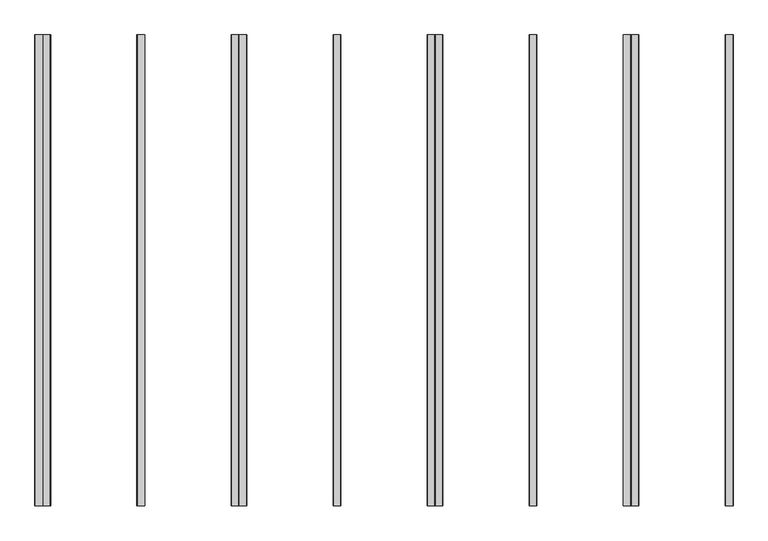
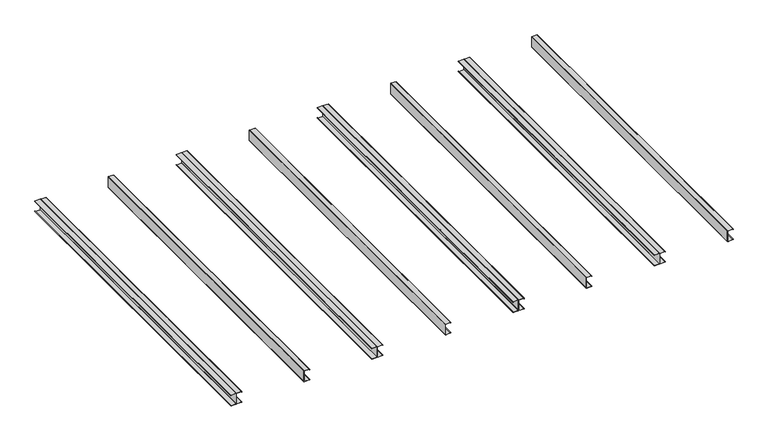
"""IFC4 building model written with IfcOpenShell, lengths in millimetres: proxy geometry, C and 2xCprofile 100mm : C and 2xCprofile 100mm 2."""

from ifc_helpers import new_model, si_unit, point, frame, frame_2d, origin, place, context, project, spatial, polyline, circle_curve, trimmed, segment, composite_curve, outline, extrude, source, transform, mapped, element, save


def generic_models_5ab04f61(model_context):
    return source(origin(), model_context, "Body", "SweptSolid", [
        extrude(outline(composite_curve([segment(polyline([(49.2, 4325.7364592), (49.2, 4374.1364592), (45.8621458, 4374.1364592), (45.8621458, 4373.3097291), (47.5, 4373.3097291), (47.5, 4372.5097291), (46.0995706, 4372.5097291)]), True, "CONTINUOUS"), segment(trimmed(circle_curve(frame_2d((46.0995706, 4373.7230941)), 1.213365), [point((46.0995706, 4372.5097291))], [point((46.0995706, 4374.9364592))], False, "CARTESIAN"), True, "CONTINUOUS"), segment(polyline([(46.0995706, 4374.9364592), (49.3270817, 4374.9364592)]), True, "CONTINUOUS"), segment(trimmed(circle_curve(frame_2d((49.3270817, 4374.2635408)), 0.6729183), [point((49.3270817, 4374.9364592))], [point((50.0, 4374.2635408))], False, "CARTESIAN"), True, "CONTINUOUS"), segment(polyline([(50.0, 4374.2635408), (50.0, 4325.7364592)]), True, "CONTINUOUS"), segment(trimmed(circle_curve(frame_2d((49.2, 4325.7364592)), 0.8), [point((50.0, 4325.7364592))], [point((49.2, 4324.9364592))], False, "CARTESIAN"), True, "CONTINUOUS"), segment(polyline([(49.2, 4324.9364592), (-49.2, 4324.9364592)]), True, "CONTINUOUS"), segment(trimmed(circle_curve(frame_2d((-49.2, 4325.7364592)), 0.8), [point((-49.2, 4324.9364592))], [point((-50.0, 4325.7364592))], False, "CARTESIAN"), True, "CONTINUOUS"), segment(polyline([(-50.0, 4325.7364592), (-50.0, 4374.2635408)]), True, "CONTINUOUS"), segment(trimmed(circle_curve(frame_2d((-49.3270817, 4374.2635408)), 0.6729183), [point((-50.0, 4374.2635408))], [point((-49.3270817, 4374.9364592))], False, "CARTESIAN"), True, "CONTINUOUS"), segment(polyline([(-49.3270817, 4374.9364592), (-46.0995706, 4374.9364592)]), True, "CONTINUOUS"), segment(trimmed(circle_curve(frame_2d((-46.0995706, 4373.7230941)), 1.213365), [point((-46.0995706, 4374.9364592))], [point((-46.0995706, 4372.5097291))], False, "CARTESIAN"), True, "CONTINUOUS"), segment(polyline([(-46.0995706, 4372.5097291), (-47.5, 4372.5097291), (-47.5, 4373.3097291), (-45.8621458, 4373.3097291), (-45.8621458, 4374.1364592), (-49.2, 4374.1364592), (-49.2, 4325.7364592), (49.2, 4325.7364592)]), True, "CONTINUOUS")], self_intersect=False)), frame((0.0, 0.0, 0.0), z_axis=(0.0, 1.0, 0.0), x_axis=(0.0, 0.0, 1.0)), (0.0, 0.0, 1.0), 3000.0),
        extrude(outline(composite_curve([segment(polyline([(49.2, 3075.7364592), (49.2, 3124.1364592), (45.8621458, 3124.1364592), (45.8621458, 3123.3097291), (47.5, 3123.3097291), (47.5, 3122.5097291), (46.0995706, 3122.5097291)]), True, "CONTINUOUS"), segment(trimmed(circle_curve(frame_2d((46.0995706, 3123.7230941)), 1.213365), [point((46.0995706, 3122.5097291))], [point((46.0995706, 3124.9364592))], False, "CARTESIAN"), True, "CONTINUOUS"), segment(polyline([(46.0995706, 3124.9364592), (49.3270817, 3124.9364592)]), True, "CONTINUOUS"), segment(trimmed(circle_curve(frame_2d((49.3270817, 3124.2635408)), 0.6729183), [point((49.3270817, 3124.9364592))], [point((50.0, 3124.2635408))], False, "CARTESIAN"), True, "CONTINUOUS"), segment(polyline([(50.0, 3124.2635408), (50.0, 3075.7364592)]), True, "CONTINUOUS"), segment(trimmed(circle_curve(frame_2d((49.2, 3075.7364592)), 0.8), [point((50.0, 3075.7364592))], [point((49.2, 3074.9364592))], False, "CARTESIAN"), True, "CONTINUOUS"), segment(polyline([(49.2, 3074.9364592), (-49.2, 3074.9364592)]), True, "CONTINUOUS"), segment(trimmed(circle_curve(frame_2d((-49.2, 3075.7364592)), 0.8), [point((-49.2, 3074.9364592))], [point((-50.0, 3075.7364592))], False, "CARTESIAN"), True, "CONTINUOUS"), segment(polyline([(-50.0, 3075.7364592), (-50.0, 3124.2635408)]), True, "CONTINUOUS"), segment(trimmed(circle_curve(frame_2d((-49.3270817, 3124.2635408)), 0.6729183), [point((-50.0, 3124.2635408))], [point((-49.3270817, 3124.9364592))], False, "CARTESIAN"), True, "CONTINUOUS"), segment(polyline([(-49.3270817, 3124.9364592), (-46.0995706, 3124.9364592)]), True, "CONTINUOUS"), segment(trimmed(circle_curve(frame_2d((-46.0995706, 3123.7230941)), 1.213365), [point((-46.0995706, 3124.9364592))], [point((-46.0995706, 3122.5097291))], False, "CARTESIAN"), True, "CONTINUOUS"), segment(polyline([(-46.0995706, 3122.5097291), (-47.5, 3122.5097291), (-47.5, 3123.3097291), (-45.8621458, 3123.3097291), (-45.8621458, 3124.1364592), (-49.2, 3124.1364592), (-49.2, 3075.7364592), (49.2, 3075.7364592)]), True, "CONTINUOUS")], self_intersect=False)), frame((0.0, 0.0, 0.0), z_axis=(0.0, 1.0, 0.0), x_axis=(0.0, 0.0, 1.0)), (0.0, 0.0, 1.0), 3000.0),
        extrude(outline(composite_curve([segment(polyline([(49.2, 1825.7364592), (49.2, 1874.1364592), (45.8621458, 1874.1364592), (45.8621458, 1873.3097291), (47.5, 1873.3097291), (47.5, 1872.5097291), (46.0995706, 1872.5097291)]), True, "CONTINUOUS"), segment(trimmed(circle_curve(frame_2d((46.0995706, 1873.7230941)), 1.213365), [point((46.0995706, 1872.5097291))], [point((46.0995706, 1874.9364592))], False, "CARTESIAN"), True, "CONTINUOUS"), segment(polyline([(46.0995706, 1874.9364592), (49.3270817, 1874.9364592)]), True, "CONTINUOUS"), segment(trimmed(circle_curve(frame_2d((49.3270817, 1874.2635408)), 0.6729183), [point((49.3270817, 1874.9364592))], [point((50.0, 1874.2635408))], False, "CARTESIAN"), True, "CONTINUOUS"), segment(polyline([(50.0, 1874.2635408), (50.0, 1825.7364592)]), True, "CONTINUOUS"), segment(trimmed(circle_curve(frame_2d((49.2, 1825.7364592)), 0.8), [point((50.0, 1825.7364592))], [point((49.2, 1824.9364592))], False, "CARTESIAN"), True, "CONTINUOUS"), segment(polyline([(49.2, 1824.9364592), (-49.2, 1824.9364592)]), True, "CONTINUOUS"), segment(trimmed(circle_curve(frame_2d((-49.2, 1825.7364592)), 0.8), [point((-49.2, 1824.9364592))], [point((-50.0, 1825.7364592))], False, "CARTESIAN"), True, "CONTINUOUS"), segment(polyline([(-50.0, 1825.7364592), (-50.0, 1874.2635408)]), True, "CONTINUOUS"), segment(trimmed(circle_curve(frame_2d((-49.3270817, 1874.2635408)), 0.6729183), [point((-50.0, 1874.2635408))], [point((-49.3270817, 1874.9364592))], False, "CARTESIAN"), True, "CONTINUOUS"), segment(polyline([(-49.3270817, 1874.9364592), (-46.0995706, 1874.9364592)]), True, "CONTINUOUS"), segment(trimmed(circle_curve(frame_2d((-46.0995706, 1873.7230941)), 1.213365), [point((-46.0995706, 1874.9364592))], [point((-46.0995706, 1872.5097291))], False, "CARTESIAN"), True, "CONTINUOUS"), segment(polyline([(-46.0995706, 1872.5097291), (-47.5, 1872.5097291), (-47.5, 1873.3097291), (-45.8621458, 1873.3097291), (-45.8621458, 1874.1364592), (-49.2, 1874.1364592), (-49.2, 1825.7364592), (49.2, 1825.7364592)]), True, "CONTINUOUS")], self_intersect=False)), frame((0.0, 0.0, 0.0), z_axis=(0.0, 1.0, 0.0), x_axis=(0.0, 0.0, 1.0)), (0.0, 0.0, 1.0), 3000.0),
        extrude(outline(composite_curve([segment(polyline([(49.2, 575.7364592), (49.2, 624.1364592), (45.8621458, 624.1364592), (45.8621458, 623.3097291), (47.5, 623.3097291), (47.5, 622.5097291), (46.0995706, 622.5097291)]), True, "CONTINUOUS"), segment(trimmed(circle_curve(frame_2d((46.0995706, 623.7230941)), 1.213365), [point((46.0995706, 622.5097291))], [point((46.0995706, 624.9364592))], False, "CARTESIAN"), True, "CONTINUOUS"), segment(polyline([(46.0995706, 624.9364592), (49.3270817, 624.9364592)]), True, "CONTINUOUS"), segment(trimmed(circle_curve(frame_2d((49.3270817, 624.2635408)), 0.6729183), [point((49.3270817, 624.9364592))], [point((50.0, 624.2635408))], False, "CARTESIAN"), True, "CONTINUOUS"), segment(polyline([(50.0, 624.2635408), (50.0, 575.7364592)]), True, "CONTINUOUS"), segment(trimmed(circle_curve(frame_2d((49.2, 575.7364592)), 0.8), [point((50.0, 575.7364592))], [point((49.2, 574.9364592))], False, "CARTESIAN"), True, "CONTINUOUS"), segment(polyline([(49.2, 574.9364592), (-49.2, 574.9364592)]), True, "CONTINUOUS"), segment(trimmed(circle_curve(frame_2d((-49.2, 575.7364592)), 0.8), [point((-49.2, 574.9364592))], [point((-50.0, 575.7364592))], False, "CARTESIAN"), True, "CONTINUOUS"), segment(polyline([(-50.0, 575.7364592), (-50.0, 624.2635408)]), True, "CONTINUOUS"), segment(trimmed(circle_curve(frame_2d((-49.3270817, 624.2635408)), 0.6729183), [point((-50.0, 624.2635408))], [point((-49.3270817, 624.9364592))], False, "CARTESIAN"), True, "CONTINUOUS"), segment(polyline([(-49.3270817, 624.9364592), (-46.0995706, 624.9364592)]), True, "CONTINUOUS"), segment(trimmed(circle_curve(frame_2d((-46.0995706, 623.7230941)), 1.213365), [point((-46.0995706, 624.9364592))], [point((-46.0995706, 622.5097291))], False, "CARTESIAN"), True, "CONTINUOUS"), segment(polyline([(-46.0995706, 622.5097291), (-47.5, 622.5097291), (-47.5, 623.3097291), (-45.8621458, 623.3097291), (-45.8621458, 624.1364592), (-49.2, 624.1364592), (-49.2, 575.7364592), (49.2, 575.7364592)]), True, "CONTINUOUS")], self_intersect=False)), frame((0.0, 0.0, 0.0), z_axis=(0.0, 1.0, 0.0), x_axis=(0.0, 0.0, 1.0)), (0.0, 0.0, 1.0), 3000.0),
        extrude(outline(composite_curve([segment(polyline([(49.2, 3724.2), (-49.2, 3724.2), (-49.2, 3675.8), (-45.8621458, 3675.8), (-45.8621458, 3676.62673), (-47.5, 3676.62673), (-47.5, 3677.42673), (-46.0995706, 3677.42673)]), True, "CONTINUOUS"), segment(trimmed(circle_curve(frame_2d((-46.0995706, 3676.213365)), 1.213365), [point((-46.0995706, 3677.42673))], [point((-46.0995706, 3675.0))], False, "CARTESIAN"), True, "CONTINUOUS"), segment(polyline([(-46.0995706, 3675.0), (-49.3270817, 3675.0)]), True, "CONTINUOUS"), segment(trimmed(circle_curve(frame_2d((-49.3270817, 3675.6729183)), 0.6729183), [point((-49.3270817, 3675.0))], [point((-50.0, 3675.6729183))], False, "CARTESIAN"), True, "CONTINUOUS"), segment(polyline([(-50.0, 3675.6729183), (-50.0, 3724.2)]), True, "CONTINUOUS"), segment(trimmed(circle_curve(frame_2d((-49.2, 3724.2)), 0.8), [point((-50.0, 3724.2))], [point((-49.2, 3725.0))], False, "CARTESIAN"), True, "CONTINUOUS"), segment(trimmed(circle_curve(frame_2d((-49.2, 3725.8)), 0.8), [point((-49.2, 3725.0))], [point((-50.0, 3725.8))], False, "CARTESIAN"), True, "CONTINUOUS"), segment(polyline([(-50.0, 3725.8), (-50.0, 3774.3270817)]), True, "CONTINUOUS"), segment(trimmed(circle_curve(frame_2d((-49.3270817, 3774.3270817)), 0.6729183), [point((-50.0, 3774.3270817))], [point((-49.3270817, 3775.0))], False, "CARTESIAN"), True, "CONTINUOUS"), segment(polyline([(-49.3270817, 3775.0), (-46.0995706, 3775.0)]), True, "CONTINUOUS"), segment(trimmed(circle_curve(frame_2d((-46.0995706, 3773.786635)), 1.213365), [point((-46.0995706, 3775.0))], [point((-46.0995706, 3772.57327))], False, "CARTESIAN"), True, "CONTINUOUS"), segment(polyline([(-46.0995706, 3772.57327), (-47.5, 3772.57327), (-47.5, 3773.37327), (-45.8621458, 3773.37327), (-45.8621458, 3774.2), (-49.2, 3774.2), (-49.2, 3725.8), (49.2, 3725.8), (49.2, 3774.2), (45.8621458, 3774.2), (45.8621458, 3773.37327), (47.5, 3773.37327), (47.5, 3772.57327), (46.0995706, 3772.57327)]), True, "CONTINUOUS"), segment(trimmed(circle_curve(frame_2d((46.0995706, 3773.786635)), 1.213365), [point((46.0995706, 3772.57327))], [point((46.0995706, 3775.0))], False, "CARTESIAN"), True, "CONTINUOUS"), segment(polyline([(46.0995706, 3775.0), (49.3270817, 3775.0)]), True, "CONTINUOUS"), segment(trimmed(circle_curve(frame_2d((49.3270817, 3774.3270817)), 0.6729183), [point((49.3270817, 3775.0))], [point((50.0, 3774.3270817))], False, "CARTESIAN"), True, "CONTINUOUS"), segment(polyline([(50.0, 3774.3270817), (50.0, 3725.8)]), True, "CONTINUOUS"), segment(trimmed(circle_curve(frame_2d((49.2, 3725.8)), 0.8), [point((50.0, 3725.8))], [point((49.2, 3725.0))], False, "CARTESIAN"), True, "CONTINUOUS"), segment(trimmed(circle_curve(frame_2d((49.2, 3724.2)), 0.8), [point((49.2, 3725.0))], [point((50.0, 3724.2))], False, "CARTESIAN"), True, "CONTINUOUS"), segment(polyline([(50.0, 3724.2), (50.0, 3675.6729183)]), True, "CONTINUOUS"), segment(trimmed(circle_curve(frame_2d((49.3270817, 3675.6729183)), 0.6729183), [point((50.0, 3675.6729183))], [point((49.3270817, 3675.0))], False, "CARTESIAN"), True, "CONTINUOUS"), segment(polyline([(49.3270817, 3675.0), (46.0995706, 3675.0)]), True, "CONTINUOUS"), segment(trimmed(circle_curve(frame_2d((46.0995706, 3676.213365)), 1.213365), [point((46.0995706, 3675.0))], [point((46.0995706, 3677.42673))], False, "CARTESIAN"), True, "CONTINUOUS"), segment(polyline([(46.0995706, 3677.42673), (47.5, 3677.42673), (47.5, 3676.62673), (45.8621458, 3676.62673), (45.8621458, 3675.8), (49.2, 3675.8), (49.2, 3724.2)]), True, "CONTINUOUS")], self_intersect=False)), frame((0.0, 0.0, 0.0), z_axis=(0.0, 1.0, 0.0), x_axis=(0.0, 0.0, 1.0)), (0.0, 0.0, 1.0), 3000.0),
        extrude(outline(composite_curve([segment(polyline([(49.2, 2474.2), (-49.2, 2474.2), (-49.2, 2425.8), (-45.8621458, 2425.8), (-45.8621458, 2426.62673), (-47.5, 2426.62673), (-47.5, 2427.42673), (-46.0995706, 2427.42673)]), True, "CONTINUOUS"), segment(trimmed(circle_curve(frame_2d((-46.0995706, 2426.213365)), 1.213365), [point((-46.0995706, 2427.42673))], [point((-46.0995706, 2425.0))], False, "CARTESIAN"), True, "CONTINUOUS"), segment(polyline([(-46.0995706, 2425.0), (-49.3270817, 2425.0)]), True, "CONTINUOUS"), segment(trimmed(circle_curve(frame_2d((-49.3270817, 2425.6729183)), 0.6729183), [point((-49.3270817, 2425.0))], [point((-50.0, 2425.6729183))], False, "CARTESIAN"), True, "CONTINUOUS"), segment(polyline([(-50.0, 2425.6729183), (-50.0, 2474.2)]), True, "CONTINUOUS"), segment(trimmed(circle_curve(frame_2d((-49.2, 2474.2)), 0.8), [point((-50.0, 2474.2))], [point((-49.2, 2475.0))], False, "CARTESIAN"), True, "CONTINUOUS"), segment(trimmed(circle_curve(frame_2d((-49.2, 2475.8)), 0.8), [point((-49.2, 2475.0))], [point((-50.0, 2475.8))], False, "CARTESIAN"), True, "CONTINUOUS"), segment(polyline([(-50.0, 2475.8), (-50.0, 2524.3270817)]), True, "CONTINUOUS"), segment(trimmed(circle_curve(frame_2d((-49.3270817, 2524.3270817)), 0.6729183), [point((-50.0, 2524.3270817))], [point((-49.3270817, 2525.0))], False, "CARTESIAN"), True, "CONTINUOUS"), segment(polyline([(-49.3270817, 2525.0), (-46.0995706, 2525.0)]), True, "CONTINUOUS"), segment(trimmed(circle_curve(frame_2d((-46.0995706, 2523.786635)), 1.213365), [point((-46.0995706, 2525.0))], [point((-46.0995706, 2522.57327))], False, "CARTESIAN"), True, "CONTINUOUS"), segment(polyline([(-46.0995706, 2522.57327), (-47.5, 2522.57327), (-47.5, 2523.37327), (-45.8621458, 2523.37327), (-45.8621458, 2524.2), (-49.2, 2524.2), (-49.2, 2475.8), (49.2, 2475.8), (49.2, 2524.2), (45.8621458, 2524.2), (45.8621458, 2523.37327), (47.5, 2523.37327), (47.5, 2522.57327), (46.0995706, 2522.57327)]), True, "CONTINUOUS"), segment(trimmed(circle_curve(frame_2d((46.0995706, 2523.786635)), 1.213365), [point((46.0995706, 2522.57327))], [point((46.0995706, 2525.0))], False, "CARTESIAN"), True, "CONTINUOUS"), segment(polyline([(46.0995706, 2525.0), (49.3270817, 2525.0)]), True, "CONTINUOUS"), segment(trimmed(circle_curve(frame_2d((49.3270817, 2524.3270817)), 0.6729183), [point((49.3270817, 2525.0))], [point((50.0, 2524.3270817))], False, "CARTESIAN"), True, "CONTINUOUS"), segment(polyline([(50.0, 2524.3270817), (50.0, 2475.8)]), True, "CONTINUOUS"), segment(trimmed(circle_curve(frame_2d((49.2, 2475.8)), 0.8), [point((50.0, 2475.8))], [point((49.2, 2475.0))], False, "CARTESIAN"), True, "CONTINUOUS"), segment(trimmed(circle_curve(frame_2d((49.2, 2474.2)), 0.8), [point((49.2, 2475.0))], [point((50.0, 2474.2))], False, "CARTESIAN"), True, "CONTINUOUS"), segment(polyline([(50.0, 2474.2), (50.0, 2425.6729183)]), True, "CONTINUOUS"), segment(trimmed(circle_curve(frame_2d((49.3270817, 2425.6729183)), 0.6729183), [point((50.0, 2425.6729183))], [point((49.3270817, 2425.0))], False, "CARTESIAN"), True, "CONTINUOUS"), segment(polyline([(49.3270817, 2425.0), (46.0995706, 2425.0)]), True, "CONTINUOUS"), segment(trimmed(circle_curve(frame_2d((46.0995706, 2426.213365)), 1.213365), [point((46.0995706, 2425.0))], [point((46.0995706, 2427.42673))], False, "CARTESIAN"), True, "CONTINUOUS"), segment(polyline([(46.0995706, 2427.42673), (47.5, 2427.42673), (47.5, 2426.62673), (45.8621458, 2426.62673), (45.8621458, 2425.8), (49.2, 2425.8), (49.2, 2474.2)]), True, "CONTINUOUS")], self_intersect=False)), frame((0.0, 0.0, 0.0), z_axis=(0.0, 1.0, 0.0), x_axis=(0.0, 0.0, 1.0)), (0.0, 0.0, 1.0), 3000.0),
        extrude(outline(composite_curve([segment(polyline([(49.2, 1224.2), (-49.2, 1224.2), (-49.2, 1175.8), (-45.8621458, 1175.8), (-45.8621458, 1176.62673), (-47.5, 1176.62673), (-47.5, 1177.42673), (-46.0995706, 1177.42673)]), True, "CONTINUOUS"), segment(trimmed(circle_curve(frame_2d((-46.0995706, 1176.213365)), 1.213365), [point((-46.0995706, 1177.42673))], [point((-46.0995706, 1175.0))], False, "CARTESIAN"), True, "CONTINUOUS"), segment(polyline([(-46.0995706, 1175.0), (-49.3270817, 1175.0)]), True, "CONTINUOUS"), segment(trimmed(circle_curve(frame_2d((-49.3270817, 1175.6729183)), 0.6729183), [point((-49.3270817, 1175.0))], [point((-50.0, 1175.6729183))], False, "CARTESIAN"), True, "CONTINUOUS"), segment(polyline([(-50.0, 1175.6729183), (-50.0, 1224.2)]), True, "CONTINUOUS"), segment(trimmed(circle_curve(frame_2d((-49.2, 1224.2)), 0.8), [point((-50.0, 1224.2))], [point((-49.2, 1225.0))], False, "CARTESIAN"), True, "CONTINUOUS"), segment(trimmed(circle_curve(frame_2d((-49.2, 1225.8)), 0.8), [point((-49.2, 1225.0))], [point((-50.0, 1225.8))], False, "CARTESIAN"), True, "CONTINUOUS"), segment(polyline([(-50.0, 1225.8), (-50.0, 1274.3270817)]), True, "CONTINUOUS"), segment(trimmed(circle_curve(frame_2d((-49.3270817, 1274.3270817)), 0.6729183), [point((-50.0, 1274.3270817))], [point((-49.3270817, 1275.0))], False, "CARTESIAN"), True, "CONTINUOUS"), segment(polyline([(-49.3270817, 1275.0), (-46.0995706, 1275.0)]), True, "CONTINUOUS"), segment(trimmed(circle_curve(frame_2d((-46.0995706, 1273.786635)), 1.213365), [point((-46.0995706, 1275.0))], [point((-46.0995706, 1272.57327))], False, "CARTESIAN"), True, "CONTINUOUS"), segment(polyline([(-46.0995706, 1272.57327), (-47.5, 1272.57327), (-47.5, 1273.37327), (-45.8621458, 1273.37327), (-45.8621458, 1274.2), (-49.2, 1274.2), (-49.2, 1225.8), (49.2, 1225.8), (49.2, 1274.2), (45.8621458, 1274.2), (45.8621458, 1273.37327), (47.5, 1273.37327), (47.5, 1272.57327), (46.0995706, 1272.57327)]), True, "CONTINUOUS"), segment(trimmed(circle_curve(frame_2d((46.0995706, 1273.786635)), 1.213365), [point((46.0995706, 1272.57327))], [point((46.0995706, 1275.0))], False, "CARTESIAN"), True, "CONTINUOUS"), segment(polyline([(46.0995706, 1275.0), (49.3270817, 1275.0)]), True, "CONTINUOUS"), segment(trimmed(circle_curve(frame_2d((49.3270817, 1274.3270817)), 0.6729183), [point((49.3270817, 1275.0))], [point((50.0, 1274.3270817))], False, "CARTESIAN"), True, "CONTINUOUS"), segment(polyline([(50.0, 1274.3270817), (50.0, 1225.8)]), True, "CONTINUOUS"), segment(trimmed(circle_curve(frame_2d((49.2, 1225.8)), 0.8), [point((50.0, 1225.8))], [point((49.2, 1225.0))], False, "CARTESIAN"), True, "CONTINUOUS"), segment(trimmed(circle_curve(frame_2d((49.2, 1224.2)), 0.8), [point((49.2, 1225.0))], [point((50.0, 1224.2))], False, "CARTESIAN"), True, "CONTINUOUS"), segment(polyline([(50.0, 1224.2), (50.0, 1175.6729183)]), True, "CONTINUOUS"), segment(trimmed(circle_curve(frame_2d((49.3270817, 1175.6729183)), 0.6729183), [point((50.0, 1175.6729183))], [point((49.3270817, 1175.0))], False, "CARTESIAN"), True, "CONTINUOUS"), segment(polyline([(49.3270817, 1175.0), (46.0995706, 1175.0)]), True, "CONTINUOUS"), segment(trimmed(circle_curve(frame_2d((46.0995706, 1176.213365)), 1.213365), [point((46.0995706, 1175.0))], [point((46.0995706, 1177.42673))], False, "CARTESIAN"), True, "CONTINUOUS"), segment(polyline([(46.0995706, 1177.42673), (47.5, 1177.42673), (47.5, 1176.62673), (45.8621458, 1176.62673), (45.8621458, 1175.8), (49.2, 1175.8), (49.2, 1224.2)]), True, "CONTINUOUS")], self_intersect=False)), frame((0.0, 0.0, 0.0), z_axis=(0.0, 1.0, 0.0), x_axis=(0.0, 0.0, 1.0)), (0.0, 0.0, 1.0), 3000.0),
        extrude(outline(composite_curve([segment(polyline([(49.2, -25.8), (-49.2, -25.8), (-49.2, -74.2), (-45.8621458, -74.2), (-45.8621458, -73.37327), (-47.5, -73.37327), (-47.5, -72.57327), (-46.0995706, -72.57327)]), True, "CONTINUOUS"), segment(trimmed(circle_curve(frame_2d((-46.0995706, -73.786635)), 1.213365), [point((-46.0995706, -72.57327))], [point((-46.0995706, -75.0))], False, "CARTESIAN"), True, "CONTINUOUS"), segment(polyline([(-46.0995706, -75.0), (-49.3270817, -75.0)]), True, "CONTINUOUS"), segment(trimmed(circle_curve(frame_2d((-49.3270817, -74.3270817)), 0.6729183), [point((-49.3270817, -75.0))], [point((-50.0, -74.3270817))], False, "CARTESIAN"), True, "CONTINUOUS"), segment(polyline([(-50.0, -74.3270817), (-50.0, -25.8)]), True, "CONTINUOUS"), segment(trimmed(circle_curve(frame_2d((-49.2, -25.8)), 0.8), [point((-50.0, -25.8))], [point((-49.2, -25.0))], False, "CARTESIAN"), True, "CONTINUOUS"), segment(trimmed(circle_curve(frame_2d((-49.2, -24.2)), 0.8), [point((-49.2, -25.0))], [point((-50.0, -24.2))], False, "CARTESIAN"), True, "CONTINUOUS"), segment(polyline([(-50.0, -24.2), (-50.0, 24.3270817)]), True, "CONTINUOUS"), segment(trimmed(circle_curve(frame_2d((-49.3270817, 24.3270817)), 0.6729183), [point((-50.0, 24.3270817))], [point((-49.3270817, 25.0))], False, "CARTESIAN"), True, "CONTINUOUS"), segment(polyline([(-49.3270817, 25.0), (-46.0995706, 25.0)]), True, "CONTINUOUS"), segment(trimmed(circle_curve(frame_2d((-46.0995706, 23.786635)), 1.213365), [point((-46.0995706, 25.0))], [point((-46.0995706, 22.57327))], False, "CARTESIAN"), True, "CONTINUOUS"), segment(polyline([(-46.0995706, 22.57327), (-47.5, 22.57327), (-47.5, 23.37327), (-45.8621458, 23.37327), (-45.8621458, 24.2), (-49.2, 24.2), (-49.2, -24.2), (49.2, -24.2), (49.2, 24.2), (45.8621458, 24.2), (45.8621458, 23.37327), (47.5, 23.37327), (47.5, 22.57327), (46.0995706, 22.57327)]), True, "CONTINUOUS"), segment(trimmed(circle_curve(frame_2d((46.0995706, 23.786635)), 1.213365), [point((46.0995706, 22.57327))], [point((46.0995706, 25.0))], False, "CARTESIAN"), True, "CONTINUOUS"), segment(polyline([(46.0995706, 25.0), (49.3270817, 25.0)]), True, "CONTINUOUS"), segment(trimmed(circle_curve(frame_2d((49.3270817, 24.3270817)), 0.6729183), [point((49.3270817, 25.0))], [point((50.0, 24.3270817))], False, "CARTESIAN"), True, "CONTINUOUS"), segment(polyline([(50.0, 24.3270817), (50.0, -24.2)]), True, "CONTINUOUS"), segment(trimmed(circle_curve(frame_2d((49.2, -24.2)), 0.8), [point((50.0, -24.2))], [point((49.2, -25.0))], False, "CARTESIAN"), True, "CONTINUOUS"), segment(trimmed(circle_curve(frame_2d((49.2, -25.8)), 0.8), [point((49.2, -25.0))], [point((50.0, -25.8))], False, "CARTESIAN"), True, "CONTINUOUS"), segment(polyline([(50.0, -25.8), (50.0, -74.3270817)]), True, "CONTINUOUS"), segment(trimmed(circle_curve(frame_2d((49.3270817, -74.3270817)), 0.6729183), [point((50.0, -74.3270817))], [point((49.3270817, -75.0))], False, "CARTESIAN"), True, "CONTINUOUS"), segment(polyline([(49.3270817, -75.0), (46.0995706, -75.0)]), True, "CONTINUOUS"), segment(trimmed(circle_curve(frame_2d((46.0995706, -73.786635)), 1.213365), [point((46.0995706, -75.0))], [point((46.0995706, -72.57327))], False, "CARTESIAN"), True, "CONTINUOUS"), segment(polyline([(46.0995706, -72.57327), (47.5, -72.57327), (47.5, -73.37327), (45.8621458, -73.37327), (45.8621458, -74.2), (49.2, -74.2), (49.2, -25.8)]), True, "CONTINUOUS")], self_intersect=False)), frame((0.0, 0.0, 0.0), z_axis=(0.0, 1.0, 0.0), x_axis=(0.0, 0.0, 1.0)), (0.0, 0.0, 1.0), 3000.0),
    ])


if __name__ == "__main__":
    model = new_model("IFC4")
    model_context = context("Model", 3, world=origin())
    ifc_project = project(units=[si_unit("LENGTHUNIT", "METRE", prefix="MILLI")], contexts=[model_context])
    site = spatial("IfcSite", under=ifc_project)
    building = spatial("IfcBuilding", under=site)
    placement = place(None, origin())
    generic_models_shape = generic_models_5ab04f61(model_context)
    element("IfcBuildingElementProxy", 1, Name="C and 2xCprofile 100mm : C and 2xCprofile 100mm 2", ObjectType="C and 2xCprofile 100mm : C and 2xCprofile 100mm 2", at=placement, inside=building, context=model_context, shape_type="MappedRepresentation", body=[
        mapped(generic_models_shape, transform((0.0, 0.0, 0.0), x_axis=(1.0, 0.0, 0.0), y_axis=(0.0, 1.0, 0.0), z_axis=(0.0, 0.0, 1.0))),
    ])
    save(model, "model.ifc")
